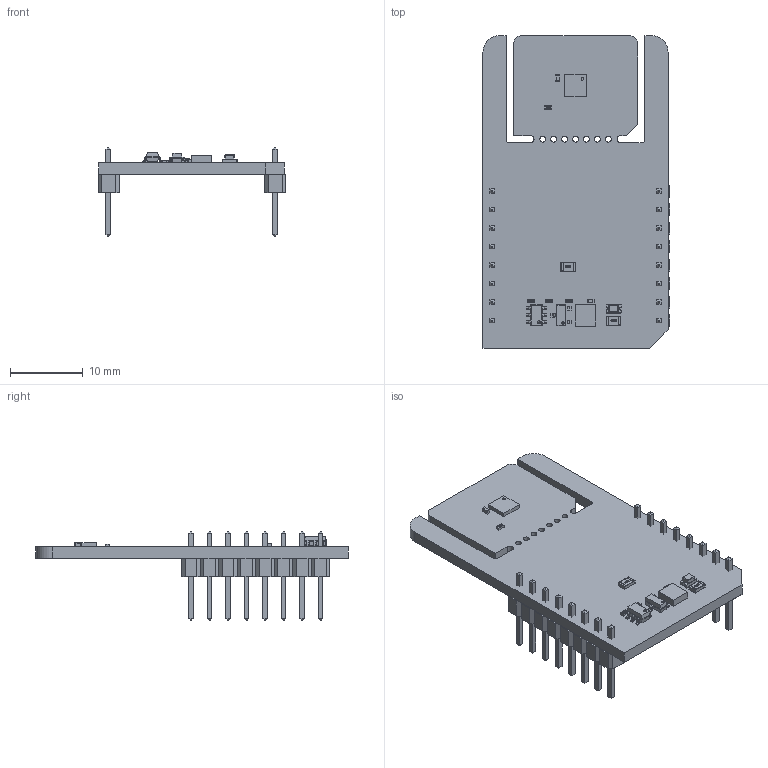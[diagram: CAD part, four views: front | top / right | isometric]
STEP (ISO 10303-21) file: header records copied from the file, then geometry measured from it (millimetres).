
FILE_DESCRIPTION(('Open CASCADE Model'),'2;1');
FILE_NAME('Open CASCADE Shape Model','2026-01-22T14:01:09',('Author'),( 'Open CASCADE'),'Open CASCADE STEP processor 6.8','Open CASCADE 6.8' ,'Unknown');
FILE_SCHEMA(('AUTOMOTIVE_DESIGN { 1 0 10303 214 1 1 1 1 }'));
Length unit declared in the file: millimetre
Products named in the file (34): PCB; Board; R5; User_Library-R_0402; U3; 1247924608; Extruded; 899142176; Cylinder; C2; User_Library-SMD_CAPACITOR0402; C1; LD1; led_0805_green; Q1; SOT23-3; R1; User_Library-R_0805; R2; R3; R4; U1; 1247917672; U2; User_Library-SOT23-6-2; JP1; MBD1; Header_1x8; Free-Models; 1240637040; User_Library-PinHeaderX5-1_PinHeaderX5_Body_1; User_Library-PinHeaderX5-1_PinHeaderX5_Pins_1
Assembly tree (40 placements, depth 7):
  PCB
    Board
    R5
      User_Library-R_0402
    U3
      1247924608
        Extruded
      899142176
        Cylinder
    C2
      User_Library-SMD_CAPACITOR0402
    C1
      User_Library-SMD_CAPACITOR0402
    LD1
      led_0805_green
    Q1
      SOT23-3
    R1
      User_Library-R_0805
    R2
      User_Library-R_0402
    R3
      User_Library-R_0402
    R4
      User_Library-R_0402
    U1
      1247917672
        Extruded
    U2
      User_Library-SOT23-6-2
    JP1
      User_Library-R_0805
    MBD1
      Header_1x8  x2
        PCB
          Free-Models
            1240637040  x2
              User_Library-PinHeaderX5-1_PinHeaderX5_Body_1
              User_Library-PinHeaderX5-1_PinHeaderX5_Pins_1
Bounding box: 25.78 x 42.93 x 12.19 mm (x, y, z)
Volume: 2155.1 mm3; surface area: 3905.1 mm2
Topology: 41 solids, 41 shells, 1345 faces, 3381 edges, 2150 vertices
Faces by surface type: plane 1038, bspline 188, cylinder 95, sphere 24
Full cylindrical faces by diameter (mm): 0.4 x1, 0.8 x7
Entity records: 25125 total; most frequent: CARTESIAN_POINT 7490, ORIENTED_EDGE 2996, DIRECTION 2674, EDGE_CURVE 1498, LINE 1194, VECTOR 1194, VERTEX_POINT 956, AXIS2_PLACEMENT_3D 740
